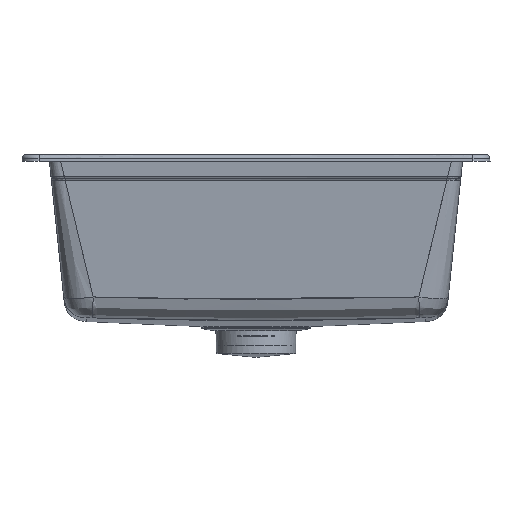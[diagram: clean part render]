
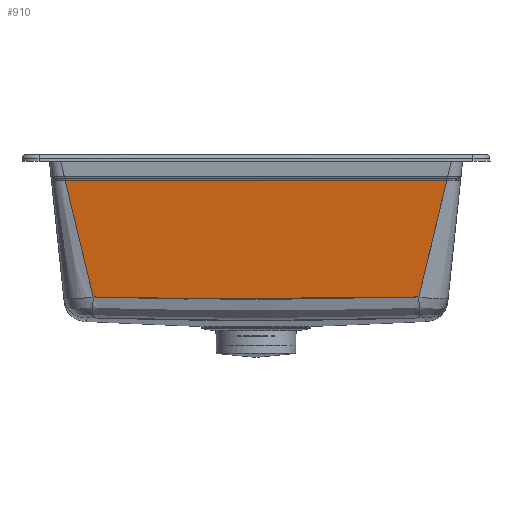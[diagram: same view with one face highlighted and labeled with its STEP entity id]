
A CAD part, front view. The second image highlights one B-rep face of the part: STEP entity #910.
In plain terms, the highlighted planar face has unit normal (0, 0.995, 0.104).
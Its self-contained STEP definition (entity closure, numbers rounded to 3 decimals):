
#172=PLANE('',#7260);
#910=ADVANCED_FACE('',(#1254),#172,.T.);
#1254=FACE_OUTER_BOUND('',#1683,.T.);
#1683=EDGE_LOOP('',(#3221));
#3221=ORIENTED_EDGE('',*,*,#4418,.T.);
#4418=EDGE_CURVE('',#6599,#6599,#5615,.T.);
#5615=B_SPLINE_CURVE_WITH_KNOTS('',3,(#49417,#49418,#49419,#49420,#49421,
#49422,#49423,#49424,#49425,#49426,#49427,#49428,#49429,#49430,#49431,#49432),
 .UNSPECIFIED.,.T.,.F.,(4,1,1,1,3,3,3,4),(0.,0.25,0.5,0.75,1.,2.,3.,4.),
 .UNSPECIFIED.);
#6599=VERTEX_POINT('',#49416);
#7260=AXIS2_PLACEMENT_3D('',#49415,#7284,$);
#7284=DIRECTION('',(0.,0.995,0.105));
#49415=CARTESIAN_POINT('',(-2.59,-264.789,-154.241));
#49416=CARTESIAN_POINT('',(375.742,-265.338,-149.007));
#49417=CARTESIAN_POINT('',(375.742,-265.338,-149.007));
#49418=CARTESIAN_POINT('',(347.3,-265.253,-149.812));
#49419=CARTESIAN_POINT('',(290.436,-265.109,-151.194));
#49420=CARTESIAN_POINT('',(205.229,-265.022,-152.017));
#49421=CARTESIAN_POINT('',(120.023,-265.109,-151.194));
#49422=CARTESIAN_POINT('',(63.159,-265.254,-149.812));
#49423=CARTESIAN_POINT('',(34.717,-265.338,-149.007));
#49424=CARTESIAN_POINT('',(24.946,-269.62,-108.269));
#49425=CARTESIAN_POINT('',(15.174,-273.902,-67.53));
#49426=CARTESIAN_POINT('',(5.403,-278.184,-26.791));
#49427=CARTESIAN_POINT('',(138.62,-278.184,-26.791));
#49428=CARTESIAN_POINT('',(271.838,-278.184,-26.791));
#49429=CARTESIAN_POINT('',(405.056,-278.184,-26.791));
#49430=CARTESIAN_POINT('',(395.284,-273.902,-67.53));
#49431=CARTESIAN_POINT('',(385.513,-269.62,-108.269));
#49432=CARTESIAN_POINT('',(375.742,-265.338,-149.007));
